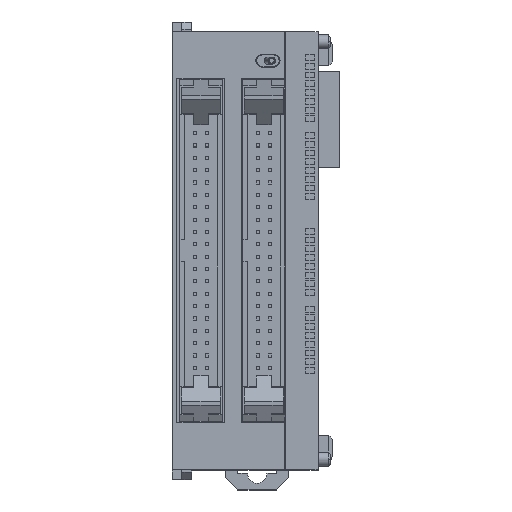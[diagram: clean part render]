
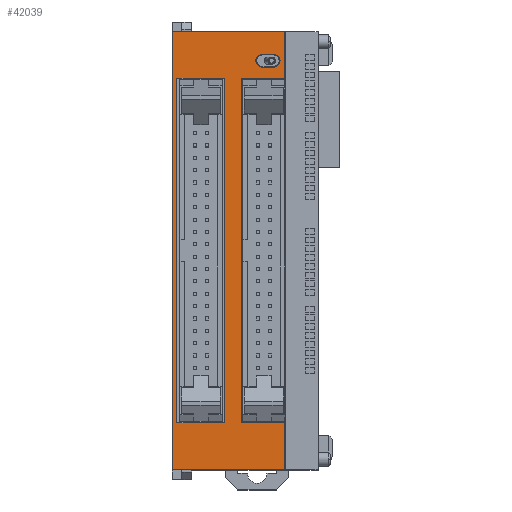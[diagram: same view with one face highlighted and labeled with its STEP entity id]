
A CAD part, top view. The second image highlights one B-rep face of the part: STEP entity #42039.
In plain terms, the highlighted planar face has unit normal (0, 0, 1).
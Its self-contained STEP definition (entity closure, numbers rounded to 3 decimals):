
#6227 = CARTESIAN_POINT ( 'NONE',  ( 7.2, 39., 60. ) ) ;
#8621 = DIRECTION ( 'NONE',  ( -1., 0., 0. ) ) ;
#8623 = CARTESIAN_POINT ( 'NONE',  ( 5.85, 40.35, 60. ) ) ;
#8632 = AXIS2_PLACEMENT_3D ( 'NONE', #8633, #8639, #8621 ) ;
#8633 = CARTESIAN_POINT ( 'NONE',  ( 5.85, 39., 60. ) ) ;
#8635 = CIRCLE ( 'NONE', #8632, 1.35 ) ;
#8639 = DIRECTION ( 'NONE',  ( 0., 0., 1. ) ) ;
#12805 = DIRECTION ( 'NONE',  ( 1., 0., 0. ) ) ;
#12809 = CARTESIAN_POINT ( 'NONE',  ( -15., -45., 60. ) ) ;
#12810 = LINE ( 'NONE', #12809, #12814 ) ;
#12814 = VECTOR ( 'NONE', #12805, 1000. ) ;
#12895 = CARTESIAN_POINT ( 'NONE',  ( 8.2, -45., 60. ) ) ;
#12905 = CARTESIAN_POINT ( 'NONE',  ( -15., -45., 60. ) ) ;
#14597 = DIRECTION ( 'NONE',  ( -1., 0., 0. ) ) ;
#14598 = VECTOR ( 'NONE', #14597, 1000. ) ;
#14599 = CARTESIAN_POINT ( 'NONE',  ( -15., 45., 60. ) ) ;
#14607 = LINE ( 'NONE', #14599, #14598 ) ;
#14637 = CARTESIAN_POINT ( 'NONE',  ( -15., 45., 60. ) ) ;
#14674 = CARTESIAN_POINT ( 'NONE',  ( 8.2, 45., 60. ) ) ;
#15531 = EDGE_CURVE ( 'NONE', #29040, #28067, #34387, .T. ) ;
#16143 = CARTESIAN_POINT ( 'NONE',  ( 3.55, 37.65, 60. ) ) ;
#16175 = CIRCLE ( 'NONE', #16230, 1.35 ) ;
#16176 = CARTESIAN_POINT ( 'NONE',  ( 8.2, -35.4, 60. ) ) ;
#16180 = CARTESIAN_POINT ( 'NONE',  ( 3.55, 40.35, 60. ) ) ;
#16187 = CARTESIAN_POINT ( 'NONE',  ( -14., -35.4, 60. ) ) ;
#16205 = DIRECTION ( 'NONE',  ( 1., 0., 0. ) ) ;
#16206 = VECTOR ( 'NONE', #16205, 1000. ) ;
#16207 = CARTESIAN_POINT ( 'NONE',  ( 3.55, 37.65, 60. ) ) ;
#16209 = LINE ( 'NONE', #16207, #16206 ) ;
#16219 = DIRECTION ( 'NONE',  ( -1., 0., 0. ) ) ;
#16220 = VECTOR ( 'NONE', #16219, 1000. ) ;
#16221 = CARTESIAN_POINT ( 'NONE',  ( 8.3, 35.4, 60. ) ) ;
#16223 = LINE ( 'NONE', #16221, #16220 ) ;
#16227 = DIRECTION ( 'NONE',  ( -1., 0., 0. ) ) ;
#16228 = DIRECTION ( 'NONE',  ( 0., 0., 1. ) ) ;
#16229 = CARTESIAN_POINT ( 'NONE',  ( 3.55, 39., 60. ) ) ;
#16230 = AXIS2_PLACEMENT_3D ( 'NONE', #16229, #16228, #16227 ) ;
#16231 = LINE ( 'NONE', #16297, #16293 ) ;
#16232 = CARTESIAN_POINT ( 'NONE',  ( -15., -45., 60. ) ) ;
#16233 = FACE_BOUND ( 'NONE', #41962, .T. ) ;
#16237 = CARTESIAN_POINT ( 'NONE',  ( 8.2, 45., 60. ) ) ;
#16239 = CARTESIAN_POINT ( 'NONE',  ( -0.7, -35.4, 60. ) ) ;
#16241 = DIRECTION ( 'NONE',  ( -1., 0., 0. ) ) ;
#16242 = DIRECTION ( 'NONE',  ( 0., 0., 1. ) ) ;
#16243 = CARTESIAN_POINT ( 'NONE',  ( 5.85, 39., 60. ) ) ;
#16244 = AXIS2_PLACEMENT_3D ( 'NONE', #16243, #16242, #16241 ) ;
#16245 = CARTESIAN_POINT ( 'NONE',  ( -4.2, -35.4, 60. ) ) ;
#16246 = DIRECTION ( 'NONE',  ( 0., -1., 0. ) ) ;
#16247 = VECTOR ( 'NONE', #16246, 1000. ) ;
#16248 = CARTESIAN_POINT ( 'NONE',  ( -14., 35.4, 60. ) ) ;
#16249 = LINE ( 'NONE', #16248, #16247 ) ;
#16250 = DIRECTION ( 'NONE',  ( -1., 0., 0. ) ) ;
#16251 = VECTOR ( 'NONE', #16250, 1000. ) ;
#16252 = CARTESIAN_POINT ( 'NONE',  ( 3.55, 40.35, 60. ) ) ;
#16253 = LINE ( 'NONE', #16252, #16251 ) ;
#16254 = CIRCLE ( 'NONE', #16244, 1.35 ) ;
#16260 = CARTESIAN_POINT ( 'NONE',  ( 5.85, 37.65, 60. ) ) ;
#16266 = CARTESIAN_POINT ( 'NONE',  ( -0.7, 35.4, 60. ) ) ;
#16267 = LINE ( 'NONE', #16266, #16338 ) ;
#16268 = DIRECTION ( 'NONE',  ( 0., -1., 0. ) ) ;
#16269 = VECTOR ( 'NONE', #16268, 1000. ) ;
#16273 = DIRECTION ( 'NONE',  ( -1., 0., 0. ) ) ;
#16274 = VECTOR ( 'NONE', #16273, 1000. ) ;
#16279 = LINE ( 'NONE', #16237, #16269 ) ;
#16280 = CARTESIAN_POINT ( 'NONE',  ( 8.2, 35.4, 60. ) ) ;
#16281 = CARTESIAN_POINT ( 'NONE',  ( -14., 35.4, 60. ) ) ;
#16282 = LINE ( 'NONE', #16281, #16274 ) ;
#16283 = DIRECTION ( 'NONE',  ( 1., 0., 0. ) ) ;
#16284 = CARTESIAN_POINT ( 'NONE',  ( -0.7, 35.4, 60. ) ) ;
#16286 = CARTESIAN_POINT ( 'NONE',  ( -4.2, 35.4, 60. ) ) ;
#16287 = PLANE ( 'NONE',  #16295 ) ;
#16289 = FACE_OUTER_BOUND ( 'NONE', #42016, .T. ) ;
#16290 = FACE_BOUND ( 'NONE', #42003, .T. ) ;
#16291 = CARTESIAN_POINT ( 'NONE',  ( -14., 35.4, 60. ) ) ;
#16292 = DIRECTION ( 'NONE',  ( 0., 1., 0. ) ) ;
#16293 = VECTOR ( 'NONE', #16292, 1000. ) ;
#16295 = AXIS2_PLACEMENT_3D ( 'NONE', #16232, #16298, #16283 ) ;
#16297 = CARTESIAN_POINT ( 'NONE',  ( -4.2, 35.4, 60. ) ) ;
#16298 = DIRECTION ( 'NONE',  ( 0., 0., 1. ) ) ;
#16299 = DIRECTION ( 'NONE',  ( 1., 0., 0. ) ) ;
#16300 = VECTOR ( 'NONE', #16299, 1000. ) ;
#16301 = CARTESIAN_POINT ( 'NONE',  ( -14., -35.4, 60. ) ) ;
#16302 = LINE ( 'NONE', #16301, #16300 ) ;
#16308 = DIRECTION ( 'NONE',  ( 0., -1., 0. ) ) ;
#16309 = VECTOR ( 'NONE', #16308, 1000. ) ;
#16324 = DIRECTION ( 'NONE',  ( 1., 0., 0. ) ) ;
#16325 = VECTOR ( 'NONE', #16324, 1000. ) ;
#16326 = CARTESIAN_POINT ( 'NONE',  ( 8.3, -35.4, 60. ) ) ;
#16327 = CARTESIAN_POINT ( 'NONE',  ( 8.2, 45., 60. ) ) ;
#16328 = LINE ( 'NONE', #16327, #16309 ) ;
#16330 = LINE ( 'NONE', #16326, #16325 ) ;
#16337 = DIRECTION ( 'NONE',  ( 0., -1., 0. ) ) ;
#16338 = VECTOR ( 'NONE', #16337, 1000. ) ;
#24413 = VERTEX_POINT ( 'NONE', #6227 ) ;
#25749 = EDGE_CURVE ( 'NONE', #24413, #25755, #8635, .T. ) ;
#25755 = VERTEX_POINT ( 'NONE', #8623 ) ;
#28029 = EDGE_CURVE ( 'NONE', #28067, #28066, #12810, .T. ) ;
#28066 = VERTEX_POINT ( 'NONE', #12895 ) ;
#28067 = VERTEX_POINT ( 'NONE', #12905 ) ;
#29026 = EDGE_CURVE ( 'NONE', #29052, #29040, #14607, .T. ) ;
#29040 = VERTEX_POINT ( 'NONE', #14637 ) ;
#29052 = VERTEX_POINT ( 'NONE', #14674 ) ;
#34377 = CARTESIAN_POINT ( 'NONE',  ( -15., 45., 60. ) ) ;
#34387 = LINE ( 'NONE', #34377, #34428 ) ;
#34427 = DIRECTION ( 'NONE',  ( 0., -1., 0. ) ) ;
#34428 = VECTOR ( 'NONE', #34427, 1000. ) ;
#41962 = EDGE_LOOP ( 'NONE', ( #42020, #42019, #41987, #42008, #42023 ) ) ;
#41970 = VERTEX_POINT ( 'NONE', #16143 ) ;
#41983 = EDGE_CURVE ( 'NONE', #41991, #41970, #16175, .T. ) ;
#41985 = VERTEX_POINT ( 'NONE', #16187 ) ;
#41987 = ORIENTED_EDGE ( 'NONE', *, *, #25749, .F. ) ;
#41988 = VERTEX_POINT ( 'NONE', #16176 ) ;
#41991 = VERTEX_POINT ( 'NONE', #16180 ) ;
#41993 = EDGE_CURVE ( 'NONE', #42054, #42060, #16223, .T. ) ;
#42002 = EDGE_CURVE ( 'NONE', #41970, #42031, #16209, .T. ) ;
#42003 = EDGE_LOOP ( 'NONE', ( #42048, #42040, #42038, #42032 ) ) ;
#42008 = ORIENTED_EDGE ( 'NONE', *, *, #42024, .F. ) ;
#42016 = EDGE_LOOP ( 'NONE', ( #42064, #42053, #42033, #42056, #42057, #42070, #42055, #42066 ) ) ;
#42019 = ORIENTED_EDGE ( 'NONE', *, *, #42021, .F. ) ;
#42020 = ORIENTED_EDGE ( 'NONE', *, *, #41983, .F. ) ;
#42021 = EDGE_CURVE ( 'NONE', #25755, #41991, #16253, .T. ) ;
#42022 = EDGE_CURVE ( 'NONE', #42041, #41985, #16249, .T. ) ;
#42023 = ORIENTED_EDGE ( 'NONE', *, *, #42002, .F. ) ;
#42024 = EDGE_CURVE ( 'NONE', #42031, #24413, #16254, .T. ) ;
#42025 = VERTEX_POINT ( 'NONE', #16245 ) ;
#42029 = EDGE_CURVE ( 'NONE', #41985, #42025, #16302, .T. ) ;
#42031 = VERTEX_POINT ( 'NONE', #16260 ) ;
#42032 = ORIENTED_EDGE ( 'NONE', *, *, #42029, .F. ) ;
#42033 = ORIENTED_EDGE ( 'NONE', *, *, #41993, .F. ) ;
#42034 = EDGE_CURVE ( 'NONE', #42025, #42042, #16231, .T. ) ;
#42036 = VERTEX_POINT ( 'NONE', #16239 ) ;
#42038 = ORIENTED_EDGE ( 'NONE', *, *, #42034, .F. ) ;
#42039 = ADVANCED_FACE ( 'NONE', ( #16233, #16290, #16289 ), #16287, .T. ) ;
#42040 = ORIENTED_EDGE ( 'NONE', *, *, #42045, .F. ) ;
#42041 = VERTEX_POINT ( 'NONE', #16291 ) ;
#42042 = VERTEX_POINT ( 'NONE', #16286 ) ;
#42045 = EDGE_CURVE ( 'NONE', #42042, #42041, #16282, .T. ) ;
#42048 = ORIENTED_EDGE ( 'NONE', *, *, #42022, .F. ) ;
#42049 = EDGE_CURVE ( 'NONE', #29052, #42054, #16279, .T. ) ;
#42051 = EDGE_CURVE ( 'NONE', #42060, #42036, #16267, .T. ) ;
#42053 = ORIENTED_EDGE ( 'NONE', *, *, #42051, .F. ) ;
#42054 = VERTEX_POINT ( 'NONE', #16280 ) ;
#42055 = ORIENTED_EDGE ( 'NONE', *, *, #28029, .T. ) ;
#42056 = ORIENTED_EDGE ( 'NONE', *, *, #42049, .F. ) ;
#42057 = ORIENTED_EDGE ( 'NONE', *, *, #29026, .T. ) ;
#42060 = VERTEX_POINT ( 'NONE', #16284 ) ;
#42061 = EDGE_CURVE ( 'NONE', #42036, #41988, #16330, .T. ) ;
#42064 = ORIENTED_EDGE ( 'NONE', *, *, #42061, .F. ) ;
#42066 = ORIENTED_EDGE ( 'NONE', *, *, #42068, .F. ) ;
#42068 = EDGE_CURVE ( 'NONE', #41988, #28066, #16328, .T. ) ;
#42070 = ORIENTED_EDGE ( 'NONE', *, *, #15531, .T. ) ;
